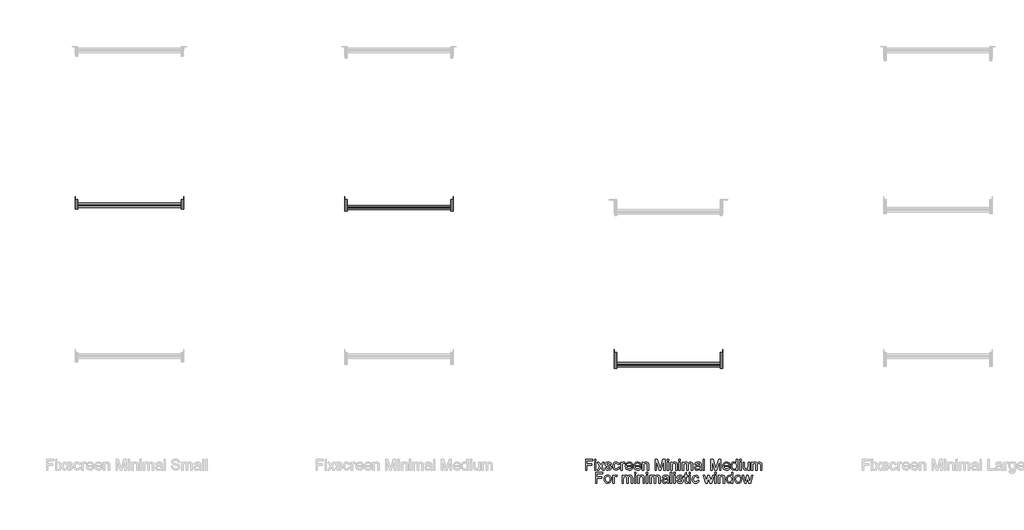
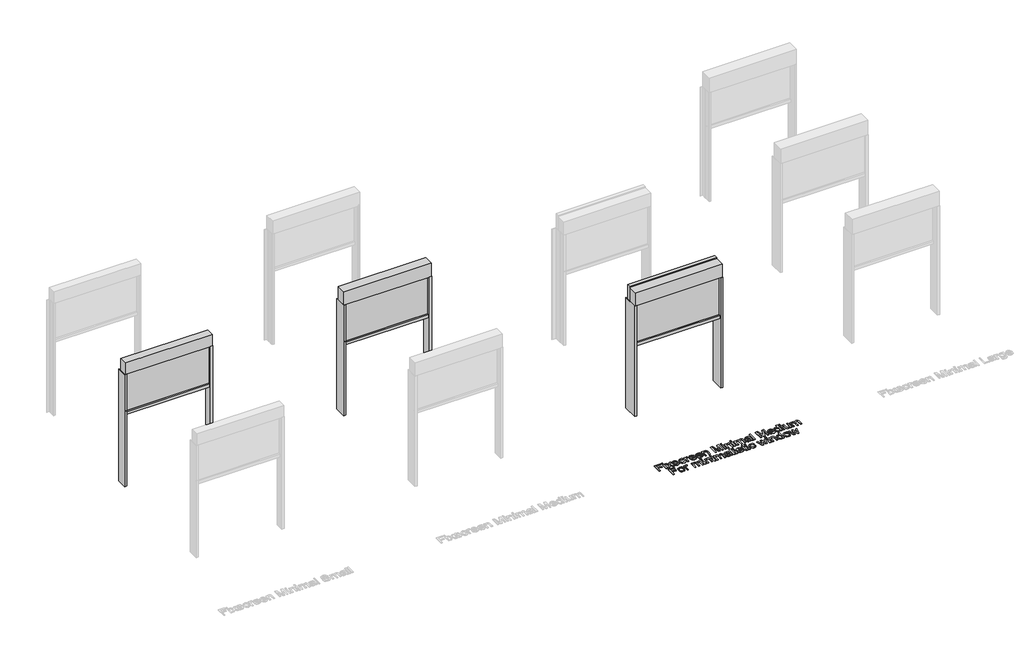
# One storey, part 2 of 3: 4 proxies.
"""IFC4 building model written with IfcOpenShell, lengths in millimetres."""

from ifc_helpers import new_model, si_unit, origin, origin_with_axes, place, context, project, spatial, polyline, outline, extrude, transform, mapped, element, save
from components import generic_models_a13b31bc, generic_models_e5bb3e6d, generic_models_f3d9dba3

model = new_model("IFC4")

# Units and contexts
model_context = context("Model", 3, world=origin())
ifc_project = project(units=[si_unit("LENGTHUNIT", "METRE", prefix="MILLI")], contexts=[model_context])

# Site, building, storey
site = spatial("IfcSite", under=ifc_project)
building = spatial("IfcBuilding", under=site)
storey = spatial("IfcBuildingStorey", under=building, Name="Fixscreen Mini Overview Top", Elevation=0.0)

# Proxies
placement = place(None, origin())
generic_models_shape = generic_models_a13b31bc(model_context)
element("IfcBuildingElementProxy", 1, Name="Renson_Fixscreen_Minimal_Single : Recessed - Front of the window - Medium - Access downwards - Fabric away from the window", ObjectType="Renson_Fixscreen_Minimal_Single : Recessed - Front of the window - Medium - Access downwards - Fabric away from the window", at=placement, inside=storey, context=model_context, shape_type="MappedRepresentation", body=[
    mapped(generic_models_shape, transform((-5021.5461115, -704.5905432, 0.0), x_axis=(1.0, 0.0, 0.0), y_axis=(0.0, 1.0, 0.0), z_axis=(0.0, 0.0, 1.0))),
])
generic_models_2_shape = generic_models_e5bb3e6d(model_context)
element("IfcBuildingElementProxy", 2, Name="Renson_Fixscreen_Minimal_Single : Recessed - Front of the window - Small - Access downwards - Fabric away from the window", ObjectType="Renson_Fixscreen_Minimal_Single : Recessed - Front of the window - Small - Access downwards - Fabric away from the window", at=placement, inside=storey, context=model_context, shape_type="MappedRepresentation", body=[
    mapped(generic_models_2_shape, transform((-7521.5461115, -704.5905432, 0.0), x_axis=(1.0, 0.0, 0.0), y_axis=(0.0, 1.0, 0.0), z_axis=(0.0, 0.0, 1.0))),
])
generic_models_3_shape = generic_models_f3d9dba3(model_context)
element("IfcBuildingElementProxy", 3, Name="Renson_Fixscreen_Minimal_Single : Recessed - Front of the window - Medium - Access downwards - Fabric away from the window - Minimalistic window", ObjectType="Renson_Fixscreen_Minimal_Single : Recessed - Front of the window - Medium - Access downwards - Fabric away from the window - Minimalistic window", at=placement, inside=storey, context=model_context, shape_type="MappedRepresentation", body=[
    mapped(generic_models_3_shape, transform((-2521.5461115, -2124.4443675, 0.0), x_axis=(1.0, 0.0, 0.0), y_axis=(0.0, 1.0, 0.0), z_axis=(0.0, 0.0, 1.0))),
])
element("IfcBuildingElementProxy", 4, Name="100mm Arial", ObjectType="100mm Arial", at=placement, inside=storey, context=model_context, shape_type="SweptSolid", body=[
    extrude(outline(polyline([(-3290.5587026, -2523.9021098), (-3290.5587026, -2423.4457997), (-3223.0646192, -2423.4457997), (-3223.0646192, -2436.0028384), (-3278.0016638, -2436.0028384), (-3278.0016638, -2465.8258055), (-3230.9127684, -2465.8258055), (-3230.9127684, -2478.3828443), (-3278.0016638, -2478.3828443), (-3278.0016638, -2523.9021098), (-3290.5587026, -2523.9021098)])), origin_with_axes(), (0.0, 0.0, 1.0), 5.0),
    extrude(outline(polyline([(-3207.3683207, -2523.9021098), (-3207.3683207, -2450.129507), (-3194.811282, -2450.129507), (-3194.811282, -2523.9021098), (-3207.3683207, -2523.9021098)])), origin_with_axes(), (0.0, 0.0, 1.0), 5.0),
    extrude(outline(polyline([(-3207.3683207, -2436.0028384), (-3207.3683207, -2423.4457997), (-3194.811282, -2423.4457997), (-3194.811282, -2436.0028384), (-3207.3683207, -2436.0028384)])), origin_with_axes(), (0.0, 0.0, 1.0), 5.0),
    extrude(outline(polyline([(-3183.823873, -2523.9021098), (-3156.9930128, -2486.8196047), (-3182.2542432, -2450.129507), (-3167.1465559, -2450.129507), (-3154.9573991, -2467.7878428), (-3149.2674909, -2476.1265014), (-3144.3378722, -2469.3084217), (-3130.4564583, -2450.129507), (-3115.348771, -2450.129507), (-3141.8853256, -2486.8196047), (-3116.3297896, -2523.9021098), (-3131.4374769, -2523.9021098), (-3146.8149443, -2501.6084609), (-3149.6353729, -2497.5372335), (-3168.7161858, -2523.9021098), (-3183.823873, -2523.9021098)])), origin_with_axes(), (0.0, 0.0, 1.0), 5.0),
    extrude(outline(polyline([(-3110.0512703, -2501.927292), (-3097.4942315, -2500.3576621), (-3091.681696, -2509.6773393), (-3078.3643677, -2512.9147009), (-3065.5620743, -2509.9471195), (-3061.392745, -2502.981887), (-3065.5865998, -2497.3410298), (-3078.5115205, -2493.7603117), (-3097.4206551, -2487.6166824), (-3105.6734745, -2480.4429835), (-3108.4816404, -2470.3139659), (-3106.2252975, -2460.9575004), (-3100.0694055, -2453.808327), (-3092.0863662, -2450.0927188), (-3081.2828982, -2448.5598772), (-3066.0035327, -2451.0246866), (-3056.291448, -2457.6956134), (-3051.974966, -2468.9650652), (-3064.5320047, -2470.534695), (-3069.253157, -2463.6062508), (-3080.3018796, -2461.116916), (-3092.3193581, -2463.4958862), (-3095.9246016, -2469.0386416), (-3094.4285482, -2472.6929361), (-3089.7441841, -2475.4643138), (-3078.9284535, -2478.1375896), (-3060.4975655, -2484.048227), (-3051.9381778, -2490.7436793), (-3048.8357063, -2501.6575118), (-3052.477738, -2513.6749903), (-3062.9869003, -2522.3937936), (-3078.536046, -2525.4717397), (-3091.197318, -2523.9879489), (-3100.4372875, -2519.5365768), (-3106.6054422, -2512.1666742), (-3110.0512703, -2501.927292)])), origin_with_axes(), (0.0, 0.0, 1.0), 5.0),
    extrude(outline(polyline([(-2987.6201423, -2497.2184024), (-2975.0631035, -2498.7880323), (-2978.5641138, -2509.9563165), (-2985.1430702, -2518.3961426), (-2994.1807045, -2523.7028404), (-3005.0577488, -2525.4717397), (-3018.4149309, -2523.0038646), (-3028.8597139, -2515.6002395), (-3035.6011515, -2503.5858266), (-3037.8482973, -2487.2855886), (-3034.0100619, -2466.4266794), (-3022.3114144, -2453.0235121), (-3005.2294271, -2448.5598772), (-2994.6190972, -2450.0927188), (-2986.1363516, -2454.6912438), (-2980.0509702, -2462.1101974), (-2976.6327333, -2472.1043249), (-2989.1897721, -2473.6739547), (-2995.0145704, -2464.2684384), (-3005.1313252, -2461.116916), (-3013.2461889, -2462.6681517), (-3019.6871895, -2467.321859), (-3023.8902413, -2475.3294237), (-3025.2912586, -2486.942232), (-3023.9208981, -2498.7113902), (-3019.8098168, -2506.7465461), (-3013.4853122, -2511.3726622), (-3005.4746818, -2512.9147009), (-2993.6411443, -2509.0642027), (-2987.6201423, -2497.2184024)])), origin_with_axes(), (0.0, 0.0, 1.0), 5.0),
    extrude(outline(polyline([(-2964.0756946, -2523.9021098), (-2964.0756946, -2450.129507), (-2953.0882857, -2450.129507), (-2953.0882857, -2461.0433396), (-2945.2891874, -2450.9878984), (-2937.4410381, -2448.5598772), (-2924.8349484, -2452.4349009), (-2929.0288032, -2463.6920899), (-2937.8579711, -2461.116916), (-2944.9580936, -2463.5939881), (-2949.4830421, -2470.4611186), (-2951.5186558, -2485.1273475), (-2951.5186558, -2523.9021098), (-2964.0756946, -2523.9021098)])), origin_with_axes(), (0.0, 0.0, 1.0), 5.0),
    extrude(outline(polyline([(-2865.3361671, -2501.927292), (-2853.024383, -2503.4969218), (-2857.4604267, -2512.7736795), (-2864.5390894, -2519.7082551), (-2874.1009556, -2524.0308685), (-2885.9866097, -2525.4717397), (-2900.7202836, -2522.9854705), (-2912.0571805, -2515.5266631), (-2919.2860617, -2503.5796953), (-2921.6956887, -2487.6289451), (-2919.2615362, -2471.1417003), (-2911.9590786, -2458.8115221), (-2900.7754659, -2451.1227884), (-2886.6978483, -2448.5598772), (-2873.0586233, -2451.1166571), (-2862.1601192, -2458.7869967), (-2855.0140114, -2471.0926494), (-2852.6319755, -2487.5553687), (-2852.7055519, -2490.939883), (-2909.13865, -2490.939883), (-2906.9650805, -2500.339268), (-2901.9159001, -2507.2493182), (-2894.6287709, -2511.4983552), (-2885.7413551, -2512.9147009), (-2873.429571, -2510.290476), (-2865.3361671, -2501.927292)]), holes=[polyline([(-2909.13865, -2478.3828443), (-2865.1890143, -2478.3828443), (-2870.2167349, -2467.0030279), (-2877.5375866, -2462.588444), (-2886.7468992, -2461.116916), (-2902.2102057, -2465.8135428), (-2907.0754451, -2471.3041816), (-2909.13865, -2478.3828443)])]), origin_with_axes(), (0.0, 0.0, 1.0), 5.0),
    extrude(outline(polyline([(-2788.4243046, -2501.927292), (-2776.1125205, -2503.4969218), (-2780.5485642, -2512.7736795), (-2787.627227, -2519.7082551), (-2797.1890931, -2524.0308685), (-2809.0747473, -2525.4717397), (-2823.8084212, -2522.9854705), (-2835.145318, -2515.5266631), (-2842.3741992, -2503.5796953), (-2844.7838263, -2487.6289451), (-2842.3496737, -2471.1417003), (-2835.0472161, -2458.8115221), (-2823.8636035, -2451.1227884), (-2809.7859858, -2448.5598772), (-2796.1467608, -2451.1166571), (-2785.2482567, -2458.7869967), (-2778.102149, -2471.0926494), (-2775.720113, -2487.5553687), (-2775.7936894, -2490.939883), (-2832.2267875, -2490.939883), (-2830.0532181, -2500.339268), (-2825.0040377, -2507.2493182), (-2817.7169085, -2511.4983552), (-2808.8294926, -2512.9147009), (-2796.5177085, -2510.290476), (-2788.4243046, -2501.927292)]), holes=[polyline([(-2832.2267875, -2478.3828443), (-2788.2771518, -2478.3828443), (-2793.3048724, -2467.0030279), (-2800.6257241, -2462.588444), (-2809.8350367, -2461.116916), (-2825.2983433, -2465.8135428), (-2830.1635827, -2471.3041816), (-2832.2267875, -2478.3828443)])]), origin_with_axes(), (0.0, 0.0, 1.0), 5.0),
    extrude(outline(polyline([(-2763.1630743, -2523.9021098), (-2763.1630743, -2450.129507), (-2750.6060355, -2450.129507), (-2750.6060355, -2460.4302029), (-2741.0043154, -2451.5274586), (-2727.8954537, -2448.5598772), (-2716.0373907, -2450.9511102), (-2707.9439868, -2457.2296296), (-2704.1793277, -2466.4634676), (-2703.5171401, -2478.6035735), (-2703.5171401, -2523.9021098), (-2716.0741789, -2523.9021098), (-2716.0741789, -2480.2958307), (-2717.5211814, -2469.1857944), (-2722.6347411, -2463.3119452), (-2731.2554426, -2461.116916), (-2744.8793391, -2466.0465347), (-2749.1743614, -2473.1895768), (-2750.6060355, -2484.7594655), (-2750.6060355, -2523.9021098), (-2763.1630743, -2523.9021098)])), origin_with_axes(), (0.0, 0.0, 1.0), 5.0),
    extrude(outline(polyline([(-2645.4408358, -2523.9021098), (-2645.4408358, -2423.4457997), (-2623.8339, -2423.4457997), (-2603.2815592, -2494.250821), (-2599.1367554, -2509.0396772), (-2594.648595, -2493.0245477), (-2574.4396108, -2423.4457997), (-2552.8326749, -2423.4457997), (-2552.8326749, -2523.9021098), (-2565.3897137, -2523.9021098), (-2565.3897137, -2436.0028384), (-2590.6264185, -2523.9021098), (-2607.6470922, -2523.9021098), (-2632.8837971, -2436.0028384), (-2632.8837971, -2523.9021098), (-2645.4408358, -2523.9021098)])), origin_with_axes(), (0.0, 0.0, 1.0), 5.0),
    extrude(outline(polyline([(-2532.4274869, -2436.0028384), (-2532.4274869, -2423.4457997), (-2519.8704481, -2423.4457997), (-2519.8704481, -2436.0028384), (-2532.4274869, -2436.0028384)])), origin_with_axes(), (0.0, 0.0, 1.0), 5.0),
    extrude(outline(polyline([(-2532.4274869, -2523.9021098), (-2532.4274869, -2450.129507), (-2519.8704481, -2450.129507), (-2519.8704481, -2523.9021098), (-2532.4274869, -2523.9021098)])), origin_with_axes(), (0.0, 0.0, 1.0), 5.0),
    extrude(outline(polyline([(-2501.03489, -2523.9021098), (-2501.03489, -2450.129507), (-2488.4778512, -2450.129507), (-2488.4778512, -2460.4302029), (-2478.8761311, -2451.5274586), (-2465.7672694, -2448.5598772), (-2453.9092064, -2450.9511102), (-2445.8158025, -2457.2296296), (-2442.0511434, -2466.4634676), (-2441.3889558, -2478.6035735), (-2441.3889558, -2523.9021098), (-2453.9459946, -2523.9021098), (-2453.9459946, -2480.2958307), (-2455.3929971, -2469.1857944), (-2460.5065568, -2463.3119452), (-2469.1272583, -2461.116916), (-2482.7511548, -2466.0465347), (-2487.0461771, -2473.1895768), (-2488.4778512, -2484.7594655), (-2488.4778512, -2523.9021098), (-2501.03489, -2523.9021098)])), origin_with_axes(), (0.0, 0.0, 1.0), 5.0),
    extrude(outline(polyline([(-2424.1230275, -2523.9021098), (-2424.1230275, -2450.129507), (-2411.5659888, -2450.129507), (-2411.5659888, -2523.9021098), (-2424.1230275, -2523.9021098)])), origin_with_axes(), (0.0, 0.0, 1.0), 5.0),
    extrude(outline(polyline([(-2424.1230275, -2436.0028384), (-2424.1230275, -2423.4457997), (-2411.5659888, -2423.4457997), (-2411.5659888, -2436.0028384), (-2424.1230275, -2436.0028384)])), origin_with_axes(), (0.0, 0.0, 1.0), 5.0),
    extrude(outline(polyline([(-2392.7304306, -2523.9021098), (-2392.7304306, -2450.129507), (-2380.1733918, -2450.129507), (-2380.1733918, -2462.2696129), (-2371.5404277, -2452.3245363), (-2359.253169, -2448.5598772), (-2346.6716048, -2452.3981127), (-2339.7554233, -2463.1525297), (-2329.9574995, -2452.2080403), (-2317.5844017, -2448.5598772), (-2308.1451629, -2450.0773904), (-2301.164602, -2454.6299301), (-2296.8511856, -2462.3401236), (-2295.4133801, -2473.3305982), (-2295.4133801, -2523.9021098), (-2307.9704189, -2523.9021098), (-2307.9704189, -2478.7262008), (-2309.1353786, -2468.2415639), (-2313.3537588, -2463.0789533), (-2320.5274577, -2461.116916), (-2332.87603, -2466.1446366), (-2336.564047, -2472.6868047), (-2337.793386, -2482.257868), (-2337.793386, -2523.9021098), (-2350.3504248, -2523.9021098), (-2350.3504248, -2477.3282492), (-2353.2566925, -2465.1636179), (-2362.7848362, -2461.116916), (-2372.0799879, -2463.8147173), (-2378.2604055, -2471.7119174), (-2380.1733918, -2486.6969774), (-2380.1733918, -2523.9021098), (-2392.7304306, -2523.9021098)])), origin_with_axes(), (0.0, 0.0, 1.0), 5.0),
    extrude(outline(polyline([(-2229.4889266, -2514.4843307), (-2241.6658206, -2522.9946676), (-2255.1180389, -2525.4717397), (-2265.6118729, -2523.9818176), (-2273.3527232, -2519.5120513), (-2278.1259921, -2512.7246285), (-2279.7170817, -2504.2817367), (-2277.313586, -2494.3489229), (-2270.9982784, -2487.1384358), (-2262.2058987, -2483.0181574), (-2251.3411171, -2481.1296965), (-2229.562503, -2476.8132144), (-2229.4889266, -2474.0173113), (-2232.9470174, -2464.746685), (-2246.8284313, -2461.116916), (-2259.5326229, -2463.5326744), (-2265.5904131, -2472.1043249), (-2278.1474518, -2470.534695), (-2272.715061, -2458.2719619), (-2261.7767031, -2451.0860002), (-2245.2097505, -2448.5598772), (-2229.9916987, -2450.7916946), (-2221.3955227, -2456.3957637), (-2217.5450245, -2464.9183633), (-2216.9318878, -2475.9057722), (-2216.9318878, -2491.5284942), (-2216.2942257, -2513.3438966), (-2213.7926281, -2523.9021098), (-2226.3496669, -2523.9021098), (-2229.4889266, -2514.4843307)]), holes=[polyline([(-2229.4889266, -2489.3702532), (-2249.7469618, -2493.2207514), (-2260.5504297, -2495.2563651), (-2265.4432603, -2498.5673031), (-2267.1600429, -2503.39882), (-2263.4199093, -2510.1923741), (-2252.4447631, -2512.9147009), (-2239.7405715, -2509.9103313), (-2231.5490658, -2502.6385305), (-2229.562503, -2492.9264458), (-2229.4889266, -2489.3702532)])]), origin_with_axes(), (0.0, 0.0, 1.0), 5.0),
    extrude(outline(polyline([(-2199.6659595, -2523.9021098), (-2199.6659595, -2423.4457997), (-2187.1089208, -2423.4457997), (-2187.1089208, -2523.9021098), (-2199.6659595, -2523.9021098)])), origin_with_axes(), (0.0, 0.0, 1.0), 5.0),
    extrude(outline(polyline([(-2127.4629866, -2523.9021098), (-2127.4629866, -2423.4457997), (-2105.8560508, -2423.4457997), (-2085.30371, -2494.250821), (-2081.1589062, -2509.0396772), (-2076.6707458, -2493.0245477), (-2056.4617615, -2423.4457997), (-2034.8548257, -2423.4457997), (-2034.8548257, -2523.9021098), (-2047.4118645, -2523.9021098), (-2047.4118645, -2436.0028384), (-2072.6485693, -2523.9021098), (-2089.669243, -2523.9021098), (-2114.9059478, -2436.0028384), (-2114.9059478, -2523.9021098), (-2127.4629866, -2523.9021098)])), origin_with_axes(), (0.0, 0.0, 1.0), 5.0),
    extrude(outline(polyline([(-1962.7990056, -2501.927292), (-1950.4872215, -2503.4969218), (-1954.9232652, -2512.7736795), (-1962.0019279, -2519.7082551), (-1971.5637941, -2524.0308685), (-1983.4494482, -2525.4717397), (-1998.1831221, -2522.9854705), (-2009.520019, -2515.5266631), (-2016.7489002, -2503.5796953), (-2019.1585272, -2487.6289451), (-2016.7243747, -2471.1417003), (-2009.4219171, -2458.8115221), (-1998.2383044, -2451.1227884), (-1984.1606868, -2448.5598772), (-1970.5214618, -2451.1166571), (-1959.6229577, -2458.7869967), (-1952.4768499, -2471.0926494), (-1950.094814, -2487.5553687), (-1950.1683904, -2490.939883), (-2006.6014885, -2490.939883), (-2004.427919, -2500.339268), (-1999.3787386, -2507.2493182), (-1992.0916094, -2511.4983552), (-1983.2041936, -2512.9147009), (-1970.8924095, -2510.290476), (-1962.7990056, -2501.927292)]), holes=[polyline([(-2006.6014885, -2478.3828443), (-1962.6518528, -2478.3828443), (-1967.6795734, -2467.0030279), (-1975.0004251, -2462.588444), (-1984.2097377, -2461.116916), (-1999.6730442, -2465.8135428), (-2004.5382836, -2471.3041816), (-2006.6014885, -2478.3828443)])]), origin_with_axes(), (0.0, 0.0, 1.0), 5.0),
    extrude(outline(polyline([(-1892.0185097, -2523.9021098), (-1892.0185097, -2512.0563096), (-1900.3265114, -2522.1178821), (-1911.810561, -2525.4717397), (-1927.3597067, -2520.6156973), (-1938.3471156, -2507.0653772), (-1942.2466648, -2487.0893848), (-1938.653684, -2467.1011298), (-1927.8870042, -2453.3423431), (-1911.859612, -2448.5598772), (-1900.2835919, -2451.9811798), (-1892.0185097, -2460.8716613), (-1892.0185097, -2423.4457997), (-1879.4614709, -2423.4457997), (-1879.4614709, -2523.9021098), (-1892.0185097, -2523.9021098)]), holes=[polyline([(-1929.689626, -2487.0403339), (-1928.2732803, -2498.3986905), (-1924.0242433, -2506.476766), (-1917.8499571, -2511.3052172), (-1910.6578641, -2512.9147009), (-1903.4688368, -2511.3787936), (-1897.4509005, -2506.7710716), (-1893.3766074, -2499.0056958), (-1892.0185097, -2487.9968271), (-1893.4011329, -2475.9609545), (-1897.5490024, -2467.6161646), (-1903.7202228, -2462.7417281), (-1911.1728989, -2461.116916), (-1918.4385683, -2462.6773488), (-1924.3921253, -2467.3586472), (-1928.3652508, -2475.3999344), (-1929.689626, -2487.0403339)])]), origin_with_axes(), (0.0, 0.0, 1.0), 5.0),
    extrude(outline(polyline([(-1860.6259128, -2523.9021098), (-1860.6259128, -2450.129507), (-1848.068874, -2450.129507), (-1848.068874, -2523.9021098), (-1860.6259128, -2523.9021098)])), origin_with_axes(), (0.0, 0.0, 1.0), 5.0),
    extrude(outline(polyline([(-1860.6259128, -2436.0028384), (-1860.6259128, -2423.4457997), (-1848.068874, -2423.4457997), (-1848.068874, -2436.0028384), (-1860.6259128, -2436.0028384)])), origin_with_axes(), (0.0, 0.0, 1.0), 5.0),
    extrude(outline(polyline([(-1782.1444205, -2523.9021098), (-1782.1444205, -2511.2224437), (-1791.9791325, -2521.9094157), (-1804.8059514, -2525.4717397), (-1816.6149634, -2522.9701421), (-1824.7574182, -2516.6916227), (-1828.4975519, -2507.4455219), (-1829.2333159, -2495.7713999), (-1829.2333159, -2450.129507), (-1816.6762771, -2450.129507), (-1816.6762771, -2489.8607625), (-1815.9159876, -2502.663056), (-1810.9495807, -2510.1801114), (-1801.5931153, -2512.9147009), (-1791.1084784, -2510.1187977), (-1784.1800342, -2502.5036404), (-1782.1444205, -2488.5118619), (-1782.1444205, -2450.129507), (-1769.5873817, -2450.129507), (-1769.5873817, -2523.9021098), (-1782.1444205, -2523.9021098)])), origin_with_axes(), (0.0, 0.0, 1.0), 5.0),
    extrude(outline(polyline([(-1752.3214534, -2523.9021098), (-1752.3214534, -2450.129507), (-1739.7644146, -2450.129507), (-1739.7644146, -2462.2696129), (-1731.1314505, -2452.3245363), (-1718.8441918, -2448.5598772), (-1706.2626276, -2452.3981127), (-1699.3464461, -2463.1525297), (-1689.5485223, -2452.2080403), (-1677.1754245, -2448.5598772), (-1667.7361857, -2450.0773904), (-1660.7556248, -2454.6299301), (-1656.4422084, -2462.3401236), (-1655.0044029, -2473.3305982), (-1655.0044029, -2523.9021098), (-1667.5614417, -2523.9021098), (-1667.5614417, -2478.7262008), (-1668.7264014, -2468.2415639), (-1672.9447816, -2463.0789533), (-1680.1184805, -2461.116916), (-1692.4670528, -2466.1446366), (-1696.1550698, -2472.6868047), (-1697.3844088, -2482.257868), (-1697.3844088, -2523.9021098), (-1709.9414476, -2523.9021098), (-1709.9414476, -2477.3282492), (-1712.8477153, -2465.1636179), (-1722.375859, -2461.116916), (-1731.6710107, -2463.8147173), (-1737.8514283, -2471.7119174), (-1739.7644146, -2486.6969774), (-1739.7644146, -2523.9021098), (-1752.3214534, -2523.9021098)])), origin_with_axes(), (0.0, 0.0, 1.0), 5.0),
    extrude(outline(polyline([(-3197.9505416, -2645.8769277), (-3197.9505416, -2545.4206175), (-3130.4564583, -2545.4206175), (-3130.4564583, -2557.9776563), (-3185.3935029, -2557.9776563), (-3185.3935029, -2587.8006234), (-3138.3046075, -2587.8006234), (-3138.3046075, -2600.3576621), (-3185.3935029, -2600.3576621), (-3185.3935029, -2645.8769277), (-3197.9505416, -2645.8769277)])), origin_with_axes(), (0.0, 0.0, 1.0), 5.0),
    extrude(outline(polyline([(-3117.8994195, -2608.9906263), (-3115.1832241, -2591.2035318), (-3107.0346379, -2578.7016753), (-3096.966934, -2572.5764401), (-3084.9126673, -2570.534695), (-3071.721032, -2573.0209642), (-3061.1842786, -2580.4797717), (-3054.2772941, -2592.3225062), (-3051.974966, -2607.9605567), (-3056.0461934, -2630.3032565), (-3067.9042563, -2642.9461344), (-3084.9126673, -2647.4465575), (-3098.263718, -2644.9694854), (-3108.7882087, -2637.5382691), (-3115.6216168, -2625.4472142), (-3117.8994195, -2608.9906263)]), holes=[polyline([(-3105.3423807, -2608.9661008), (-3103.8892468, -2620.3305888), (-3099.5298452, -2628.4270584), (-3092.969283, -2633.2739036), (-3084.9126673, -2634.8895187), (-3076.8928398, -2633.2647066), (-3070.3445403, -2628.3902702), (-3065.9851386, -2620.1865017), (-3064.5320047, -2608.5736933), (-3065.9943357, -2597.5402992), (-3070.3813285, -2589.5541942), (-3076.938825, -2584.7073489), (-3084.9126673, -2583.0917338), (-3092.969283, -2584.7012175), (-3099.5298452, -2589.5296687), (-3103.8892468, -2597.6077442), (-3105.3423807, -2608.9661008)])]), origin_with_axes(), (0.0, 0.0, 1.0), 5.0),
    extrude(outline(polyline([(-3037.8482973, -2645.8769277), (-3037.8482973, -2572.1043249), (-3026.8608884, -2572.1043249), (-3026.8608884, -2583.0181574), (-3019.0617901, -2572.9627162), (-3011.2136409, -2570.534695), (-2998.6075512, -2574.4097187), (-3002.8014059, -2585.6669078), (-3011.6305738, -2583.0917338), (-3018.7306963, -2585.5688059), (-3023.2556449, -2592.4359365), (-3025.2912586, -2607.1021654), (-3025.2912586, -2645.8769277), (-3037.8482973, -2645.8769277)])), origin_with_axes(), (0.0, 0.0, 1.0), 5.0),
    extrude(outline(polyline([(-2951.5186558, -2645.8769277), (-2951.5186558, -2572.1043249), (-2938.961617, -2572.1043249), (-2938.961617, -2584.2444307), (-2930.3286529, -2574.2993541), (-2918.0413942, -2570.534695), (-2905.45983, -2574.3729305), (-2898.5436485, -2585.1273475), (-2888.7457247, -2574.1828582), (-2876.3726269, -2570.534695), (-2866.9333881, -2572.0522083), (-2859.9528272, -2576.604748), (-2855.6394108, -2584.3149415), (-2854.2016054, -2595.3054161), (-2854.2016054, -2645.8769277), (-2866.7586441, -2645.8769277), (-2866.7586441, -2600.7010187), (-2867.9236038, -2590.2163818), (-2872.141984, -2585.0537711), (-2879.3156829, -2583.0917338), (-2891.6642552, -2588.1194544), (-2895.3522722, -2594.6616226), (-2896.5816112, -2604.2326858), (-2896.5816112, -2645.8769277), (-2909.13865, -2645.8769277), (-2909.13865, -2599.3030671), (-2912.0449177, -2587.1384358), (-2921.5730614, -2583.0917338), (-2930.8682131, -2585.7895351), (-2937.0486307, -2593.6867353), (-2938.961617, -2608.6717952), (-2938.961617, -2645.8769277), (-2951.5186558, -2645.8769277)])), origin_with_axes(), (0.0, 0.0, 1.0), 5.0),
    extrude(outline(polyline([(-2835.3660472, -2645.8769277), (-2835.3660472, -2572.1043249), (-2822.8090084, -2572.1043249), (-2822.8090084, -2645.8769277), (-2835.3660472, -2645.8769277)])), origin_with_axes(), (0.0, 0.0, 1.0), 5.0),
    extrude(outline(polyline([(-2835.3660472, -2557.9776563), (-2835.3660472, -2545.4206175), (-2822.8090084, -2545.4206175), (-2822.8090084, -2557.9776563), (-2835.3660472, -2557.9776563)])), origin_with_axes(), (0.0, 0.0, 1.0), 5.0),
    extrude(outline(polyline([(-2803.9734503, -2645.8769277), (-2803.9734503, -2572.1043249), (-2791.4164115, -2572.1043249), (-2791.4164115, -2582.4050208), (-2781.8146914, -2573.5022765), (-2768.7058297, -2570.534695), (-2756.8477667, -2572.925928), (-2748.7543628, -2579.2044474), (-2744.9897037, -2588.4382855), (-2744.3275161, -2600.5783913), (-2744.3275161, -2645.8769277), (-2756.8845549, -2645.8769277), (-2756.8845549, -2602.2706485), (-2758.3315574, -2591.1606122), (-2763.4451171, -2585.2867631), (-2772.0658186, -2583.0917338), (-2785.6897151, -2588.0213526), (-2789.9847374, -2595.1643946), (-2791.4164115, -2606.7342834), (-2791.4164115, -2645.8769277), (-2803.9734503, -2645.8769277)])), origin_with_axes(), (0.0, 0.0, 1.0), 5.0),
    extrude(outline(polyline([(-2727.0615878, -2645.8769277), (-2727.0615878, -2572.1043249), (-2714.504549, -2572.1043249), (-2714.504549, -2645.8769277), (-2727.0615878, -2645.8769277)])), origin_with_axes(), (0.0, 0.0, 1.0), 5.0),
    extrude(outline(polyline([(-2727.0615878, -2557.9776563), (-2727.0615878, -2545.4206175), (-2714.504549, -2545.4206175), (-2714.504549, -2557.9776563), (-2727.0615878, -2557.9776563)])), origin_with_axes(), (0.0, 0.0, 1.0), 5.0),
    extrude(outline(polyline([(-2695.6689909, -2645.8769277), (-2695.6689909, -2572.1043249), (-2683.1119521, -2572.1043249), (-2683.1119521, -2584.2444307), (-2674.478988, -2574.2993541), (-2662.1917293, -2570.534695), (-2649.6101651, -2574.3729305), (-2642.6939836, -2585.1273475), (-2632.8960598, -2574.1828582), (-2620.522962, -2570.534695), (-2611.0837232, -2572.0522083), (-2604.1031623, -2576.604748), (-2599.7897459, -2584.3149415), (-2598.3519404, -2595.3054161), (-2598.3519404, -2645.8769277), (-2610.9089792, -2645.8769277), (-2610.9089792, -2600.7010187), (-2612.0739389, -2590.2163818), (-2616.2923191, -2585.0537711), (-2623.466018, -2583.0917338), (-2635.8145903, -2588.1194544), (-2639.5026073, -2594.6616226), (-2640.7319463, -2604.2326858), (-2640.7319463, -2645.8769277), (-2653.2889851, -2645.8769277), (-2653.2889851, -2599.3030671), (-2656.1952528, -2587.1384358), (-2665.7233965, -2583.0917338), (-2675.0185482, -2585.7895351), (-2681.1989658, -2593.6867353), (-2683.1119521, -2608.6717952), (-2683.1119521, -2645.8769277), (-2695.6689909, -2645.8769277)])), origin_with_axes(), (0.0, 0.0, 1.0), 5.0),
    extrude(outline(polyline([(-2532.4274869, -2636.4591486), (-2544.6043809, -2644.9694854), (-2558.0565992, -2647.4465575), (-2568.5504331, -2645.9566354), (-2576.2912835, -2641.4868692), (-2581.0645523, -2634.6994464), (-2582.655642, -2626.2565546), (-2580.2521463, -2616.3237407), (-2573.9368387, -2609.1132536), (-2565.144459, -2604.9929753), (-2554.2796774, -2603.1045144), (-2532.5010633, -2598.7880323), (-2532.4274869, -2595.9921291), (-2535.8855777, -2586.7215028), (-2549.7669916, -2583.0917338), (-2562.4711832, -2585.5074923), (-2568.5289734, -2594.0791427), (-2581.0860121, -2592.5095129), (-2575.6536213, -2580.2467797), (-2564.7152633, -2573.0608181), (-2548.1483108, -2570.534695), (-2532.930259, -2572.7665125), (-2524.334083, -2578.3705815), (-2520.4835848, -2586.8931811), (-2519.8704481, -2597.88059), (-2519.8704481, -2613.5033121), (-2519.232786, -2635.3187144), (-2516.7311884, -2645.8769277), (-2529.2882272, -2645.8769277), (-2532.4274869, -2636.4591486)]), holes=[polyline([(-2532.4274869, -2611.345071), (-2552.6855221, -2615.1955693), (-2563.48899, -2617.231183), (-2568.3818206, -2620.5421209), (-2570.0986032, -2625.3736378), (-2566.3584696, -2632.167192), (-2555.3833234, -2634.8895187), (-2542.6791318, -2631.8851491), (-2534.4876261, -2624.6133483), (-2532.5010633, -2614.9012637), (-2532.4274869, -2611.345071)])]), origin_with_axes(), (0.0, 0.0, 1.0), 5.0),
    extrude(outline(polyline([(-2502.6045198, -2645.8769277), (-2502.6045198, -2545.4206175), (-2490.0474811, -2545.4206175), (-2490.0474811, -2645.8769277), (-2502.6045198, -2645.8769277)])), origin_with_axes(), (0.0, 0.0, 1.0), 5.0),
    extrude(outline(polyline([(-2471.2119229, -2645.8769277), (-2471.2119229, -2572.1043249), (-2458.6548841, -2572.1043249), (-2458.6548841, -2645.8769277), (-2471.2119229, -2645.8769277)])), origin_with_axes(), (0.0, 0.0, 1.0), 5.0),
    extrude(outline(polyline([(-2471.2119229, -2557.9776563), (-2471.2119229, -2545.4206175), (-2458.6548841, -2545.4206175), (-2458.6548841, -2557.9776563), (-2471.2119229, -2557.9776563)])), origin_with_axes(), (0.0, 0.0, 1.0), 5.0),
    extrude(outline(polyline([(-2444.5282155, -2623.9021098), (-2431.9711768, -2622.33248), (-2426.1586412, -2631.6521572), (-2412.841313, -2634.8895187), (-2400.0390196, -2631.9219373), (-2395.8696903, -2624.9567049), (-2400.063545, -2619.3158476), (-2412.9884658, -2615.7351295), (-2431.8976004, -2609.5915002), (-2440.1504198, -2602.4178013), (-2442.9585857, -2592.2887837), (-2440.7022428, -2582.9323183), (-2434.5463507, -2575.7831448), (-2426.5633114, -2572.0675367), (-2415.7598435, -2570.534695), (-2400.480478, -2572.9995044), (-2390.7683933, -2579.6704313), (-2386.4519112, -2590.939883), (-2399.00895, -2592.5095129), (-2403.7301023, -2585.5810687), (-2414.7788248, -2583.0917338), (-2426.7963034, -2585.4707041), (-2430.4015469, -2591.0134594), (-2428.9054935, -2594.6677539), (-2424.2211294, -2597.4391316), (-2413.4053987, -2600.1124075), (-2394.9745108, -2606.0230448), (-2386.415123, -2612.7184972), (-2383.3126515, -2623.6323297), (-2386.9546833, -2635.6498082), (-2397.4638456, -2644.3686115), (-2413.0129913, -2647.4465575), (-2425.6742633, -2645.9627668), (-2434.9142327, -2641.5113947), (-2441.0823875, -2634.141492), (-2444.5282155, -2623.9021098)])), origin_with_axes(), (0.0, 0.0, 1.0), 5.0),
    extrude(outline(polyline([(-2342.5022755, -2635.4045535), (-2340.9326457, -2646.2448097), (-2350.3258993, -2647.4465575), (-2360.8473244, -2645.3618929), (-2366.0957742, -2639.8927139), (-2367.6163531, -2625.6434179), (-2367.6163531, -2584.6613637), (-2377.0341321, -2584.6613637), (-2377.0341321, -2572.1043249), (-2367.6163531, -2572.1043249), (-2367.6163531, -2554.176209), (-2355.0593143, -2546.7940436), (-2355.0593143, -2572.1043249), (-2342.5022755, -2572.1043249), (-2342.5022755, -2584.6613637), (-2355.0593143, -2584.6613637), (-2355.0593143, -2625.2755359), (-2354.3971267, -2631.750259), (-2352.2511484, -2634.0433901), (-2347.9714545, -2634.8895187), (-2342.5022755, -2635.4045535)])), origin_with_axes(), (0.0, 0.0, 1.0), 5.0),
    extrude(outline(polyline([(-2329.9452368, -2645.8769277), (-2329.9452368, -2572.1043249), (-2317.388198, -2572.1043249), (-2317.388198, -2645.8769277), (-2329.9452368, -2645.8769277)])), origin_with_axes(), (0.0, 0.0, 1.0), 5.0),
    extrude(outline(polyline([(-2329.9452368, -2557.9776563), (-2329.9452368, -2545.4206175), (-2317.388198, -2545.4206175), (-2317.388198, -2557.9776563), (-2329.9452368, -2557.9776563)])), origin_with_axes(), (0.0, 0.0, 1.0), 5.0),
    extrude(outline(polyline([(-2251.4637445, -2619.1932203), (-2238.9067057, -2620.7628501), (-2242.407716, -2631.9311344), (-2248.9866724, -2640.3709605), (-2258.0243067, -2645.6776582), (-2268.901351, -2647.4465575), (-2282.2585331, -2644.9786825), (-2292.7033161, -2637.5750573), (-2299.4447537, -2625.5606445), (-2301.6918995, -2609.2604064), (-2297.853664, -2588.4014973), (-2286.1550166, -2574.9983299), (-2269.0730293, -2570.534695), (-2258.4626994, -2572.0675367), (-2249.9799537, -2576.6660616), (-2243.8945724, -2584.0850152), (-2240.4763355, -2594.0791427), (-2253.0333743, -2595.6487726), (-2258.8581726, -2586.2432562), (-2268.9749274, -2583.0917338), (-2277.0897911, -2584.6429696), (-2283.5307917, -2589.2966768), (-2287.7338435, -2597.3042416), (-2289.1348608, -2608.9170499), (-2287.7645003, -2620.686208), (-2283.653419, -2628.721364), (-2277.3289144, -2633.34748), (-2269.318284, -2634.8895187), (-2257.4847464, -2631.0390205), (-2251.4637445, -2619.1932203)])), origin_with_axes(), (0.0, 0.0, 1.0), 5.0),
    extrude(outline(polyline([(-2176.4403429, -2645.8769277), (-2198.8811446, -2572.1043249), (-2185.8335965, -2572.1043249), (-2173.1048795, -2615.1465183), (-2169.3034322, -2630.5239857), (-2166.188698, -2615.7106041), (-2156.0596804, -2572.1043249), (-2141.0991459, -2572.1043249), (-2131.0191792, -2615.5879767), (-2128.2478015, -2629.0034068), (-2124.274676, -2614.8522127), (-2111.5214335, -2572.1043249), (-2098.4248345, -2572.1043249), (-2121.0373144, -2645.8769277), (-2136.2185781, -2645.8769277), (-2145.8570864, -2602.614005), (-2148.6529895, -2589.1249985), (-2161.087401, -2645.8769277), (-2176.4403429, -2645.8769277)])), origin_with_axes(), (0.0, 0.0, 1.0), 5.0),
    extrude(outline(polyline([(-2089.7918703, -2645.8769277), (-2089.7918703, -2572.1043249), (-2077.2348315, -2572.1043249), (-2077.2348315, -2645.8769277), (-2089.7918703, -2645.8769277)])), origin_with_axes(), (0.0, 0.0, 1.0), 5.0),
    extrude(outline(polyline([(-2089.7918703, -2557.9776563), (-2089.7918703, -2545.4206175), (-2077.2348315, -2545.4206175), (-2077.2348315, -2557.9776563), (-2089.7918703, -2557.9776563)])), origin_with_axes(), (0.0, 0.0, 1.0), 5.0),
    extrude(outline(polyline([(-2058.3992734, -2645.8769277), (-2058.3992734, -2572.1043249), (-2045.8422346, -2572.1043249), (-2045.8422346, -2582.4050208), (-2036.2405145, -2573.5022765), (-2023.1316528, -2570.534695), (-2011.2735898, -2572.925928), (-2003.1801859, -2579.2044474), (-1999.4155268, -2588.4382855), (-1998.7533392, -2600.5783913), (-1998.7533392, -2645.8769277), (-2011.310378, -2645.8769277), (-2011.310378, -2602.2706485), (-2012.7573805, -2591.1606122), (-2017.8709402, -2585.2867631), (-2026.4916417, -2583.0917338), (-2040.1155382, -2588.0213526), (-2044.4105605, -2595.1643946), (-2045.8422346, -2606.7342834), (-2045.8422346, -2645.8769277), (-2058.3992734, -2645.8769277)])), origin_with_axes(), (0.0, 0.0, 1.0), 5.0),
    extrude(outline(polyline([(-1935.9681454, -2645.8769277), (-1935.9681454, -2634.0311274), (-1944.2761471, -2644.0927), (-1955.7601967, -2647.4465575), (-1971.3093424, -2642.5905152), (-1982.2967513, -2629.040195), (-1986.1963005, -2609.0642027), (-1982.6033196, -2589.0759476), (-1971.8366399, -2575.317161), (-1955.8092477, -2570.534695), (-1944.2332275, -2573.9559976), (-1935.9681454, -2582.8464792), (-1935.9681454, -2545.4206175), (-1923.4111066, -2545.4206175), (-1923.4111066, -2645.8769277), (-1935.9681454, -2645.8769277)]), holes=[polyline([(-1973.6392617, -2609.0151517), (-1972.222916, -2620.3735083), (-1967.973879, -2628.4515838), (-1961.7995928, -2633.280035), (-1954.6074998, -2634.8895187), (-1947.4184725, -2633.3536114), (-1941.4005362, -2628.7458894), (-1937.3262431, -2620.9805136), (-1935.9681454, -2609.9716449), (-1937.3507686, -2597.9357723), (-1941.4986381, -2589.5909824), (-1947.6698585, -2584.716546), (-1955.1225346, -2583.0917338), (-1962.388204, -2584.6521666), (-1968.341761, -2589.333465), (-1972.3148865, -2597.3747523), (-1973.6392617, -2609.0151517)])]), origin_with_axes(), (0.0, 0.0, 1.0), 5.0),
    extrude(outline(polyline([(-1907.7148082, -2608.9906263), (-1904.9986128, -2591.2035318), (-1896.8500266, -2578.7016753), (-1886.7823226, -2572.5764401), (-1874.7280559, -2570.534695), (-1861.5364207, -2573.0209642), (-1850.9996672, -2580.4797717), (-1844.0926828, -2592.3225062), (-1841.7903546, -2607.9605567), (-1845.861582, -2630.3032565), (-1857.719645, -2642.9461344), (-1874.7280559, -2647.4465575), (-1888.0791067, -2644.9694854), (-1898.6035974, -2637.5382691), (-1905.4370055, -2625.4472142), (-1907.7148082, -2608.9906263)]), holes=[polyline([(-1895.1577694, -2608.9661008), (-1893.7046355, -2620.3305888), (-1889.3452339, -2628.4270584), (-1882.7846716, -2633.2739036), (-1874.7280559, -2634.8895187), (-1866.7082284, -2633.2647066), (-1860.1599289, -2628.3902702), (-1855.8005273, -2620.1865017), (-1854.3473934, -2608.5736933), (-1855.8097243, -2597.5402992), (-1860.1967171, -2589.5541942), (-1866.7542137, -2584.7073489), (-1874.7280559, -2583.0917338), (-1882.7846716, -2584.7012175), (-1889.3452339, -2589.5296687), (-1893.7046355, -2597.6077442), (-1895.1577694, -2608.9661008)])]), origin_with_axes(), (0.0, 0.0, 1.0), 5.0),
    extrude(outline(polyline([(-1815.4254783, -2645.8769277), (-1837.86628, -2572.1043249), (-1824.8187319, -2572.1043249), (-1812.0900149, -2615.1465183), (-1808.2885676, -2630.5239857), (-1805.1738334, -2615.7106041), (-1795.0448158, -2572.1043249), (-1780.0842813, -2572.1043249), (-1770.0043146, -2615.5879767), (-1767.2329369, -2629.0034068), (-1763.2598114, -2614.8522127), (-1750.5065689, -2572.1043249), (-1737.4099699, -2572.1043249), (-1760.0224498, -2645.8769277), (-1775.2037135, -2645.8769277), (-1784.8422218, -2602.614005), (-1787.6381249, -2589.1249985), (-1800.0725364, -2645.8769277), (-1815.4254783, -2645.8769277)])), origin_with_axes(), (0.0, 0.0, 1.0), 5.0),
])

save(model, "model.ifc")
